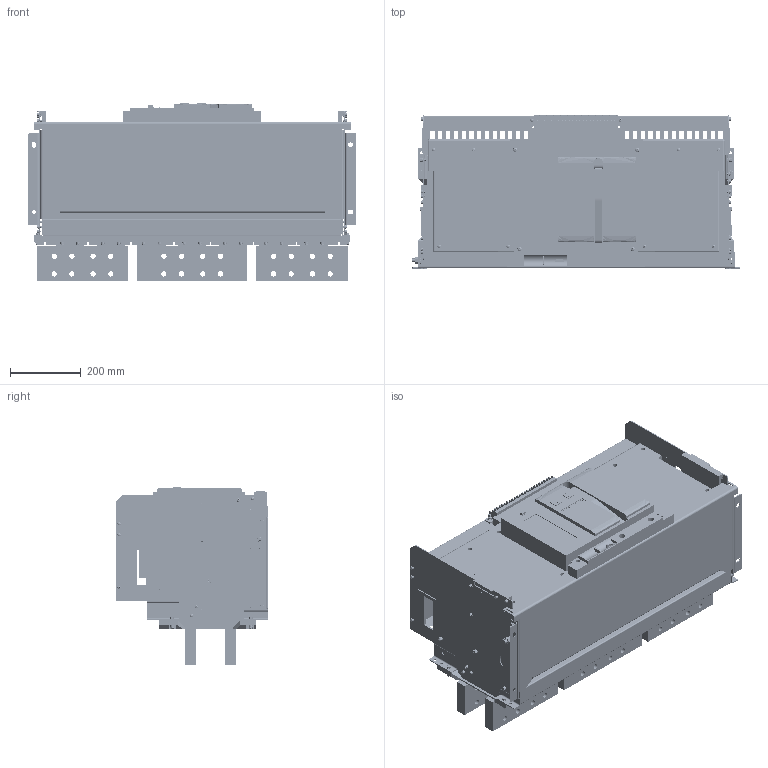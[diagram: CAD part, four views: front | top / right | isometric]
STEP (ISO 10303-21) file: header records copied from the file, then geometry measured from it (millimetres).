
FILE_DESCRIPTION (( 'STEP AP214' ), '1' );
FILE_NAME ('TENGEN-TGW1N-6300-5000D 3P.STEP', '2025-03-19T17:22:29', ( '' ), ( '' ), 'SwSTEP 2.0', 'SolidWorks 2020', '' );
FILE_SCHEMA (( 'AUTOMOTIVE_DESIGN' ));
Length unit declared in the file: millimetre
Products named in the file (31): hex nut style 2 gradeab_iso_ISO - 4033 - M8 - W - N; lock washer spring regular_ai_Regular LW 0.216; Àâòîìàò 1600 âûêàòíîé; Êîðçèíà_Ëåâàÿ ÷àñòü; hex screw gradeab_iso_ISO 4017 - M6 x 30-N; 砐儇鍻罻; lock washer spring heavy_ai_Heavy LW 0.4375; hex nut style 2 gradeab_iso_ISO - 4033 - M6 - W - N; Çåðêàëüíî îòðàçèòüÁîêîâàÿ ÷àñòü àâòîìàòà; Êëåììíèêè 3200; TENGEN-TGW1N-6300-5000D 3P; hex screw gradeab_iso_ISO 4017 - M10 x 35-N; 醫贂; Ïëîùàäêà ñ øèíàìè; Êîðçèíà_Ïðàâàÿ ÷àñòü; pan head cross recess screw_iso_ISO 7045 - M6 x 12 - Z - 12N; Ïåðåäíÿÿ ïëàòà; Çåðêàëüíî îòðàçèòüÊðåïëåíèå êîðçèíû ëåâîå; Railing; hex screw gradeab_iso_ISO 4017 - M5 x 10-N; Çåðêàëüíî îòðàçèòüRailing; Êðåïëåíèå êîðçèíû ëåâîå; hex screw gradeab_iso_ISO 4017 - M5 x 12-N; plain washer 10673 type snl_iso_ISO 10673-5.5-S; Ï-Ïðîôèëü; lock washer spring heavy_ai_Heavy LW 0.3125; lock washer spring heavy_ai_Heavy LW 0.216; hex thin nut chamfered gradeab_iso_ISO - 4035 - M10 - N; pan head cross recess screw_iso_ISO 7045 - M5 x 8 - Z - 8N; Ïëàñòèêîâàÿ ðó÷êà; Áîêîâàÿ ÷àñòü àâòîìàòà
Assembly tree (349 placements, depth 2):
  TENGEN-TGW1N-6300-5000D 3P
    Êîðçèíà_Ïðàâàÿ ÷àñòü
    醫贂
    Êîðçèíà_Ëåâàÿ ÷àñòü
    Ïëàñòèêîâàÿ ðó÷êà  x2
    Êðåïëåíèå êîðçèíû ëåâîå
    Ïëîùàäêà ñ øèíàìè
    砐儇鍻罻
    Ïåðåäíÿÿ ïëàòà
    Railing
    Àâòîìàò 1600 âûêàòíîé
    Çåðêàëüíî îòðàçèòüRailing
    Çåðêàëüíî îòðàçèòüÊðåïëåíèå êîðçèíû ëåâîå
    plain washer 10673 type snl_iso_ISO 10673-5.5-S  x104
    lock washer spring regular_ai_Regular LW 0.216
    hex screw gradeab_iso_ISO 4017 - M5 x 12-N  x5
    lock washer spring heavy_ai_Heavy LW 0.216  x100
    hex screw gradeab_iso_ISO 4017 - M5 x 10-N  x72
    hex screw gradeab_iso_ISO 4017 - M6 x 30-N  x4
    lock washer spring heavy_ai_Heavy LW 0.3125
    hex nut style 2 gradeab_iso_ISO - 4033 - M8 - W - N
    hex nut style 2 gradeab_iso_ISO - 4033 - M6 - W - N  x8
    pan head cross recess screw_iso_ISO 7045 - M5 x 8 - Z - 8N  x27
    pan head cross recess screw_iso_ISO 7045 - M6 x 12 - Z - 12N  x4
    hex screw gradeab_iso_ISO 4017 - M10 x 35-N
    lock washer spring heavy_ai_Heavy LW 0.4375
    hex thin nut chamfered gradeab_iso_ISO - 4035 - M10 - N  x2
    Êëåììíèêè 3200
    Áîêîâàÿ ÷àñòü àâòîìàòà
    Çåðêàëüíî îòðàçèòüÁîêîâàÿ ÷àñòü àâòîìàòà
    Ï-Ïðîôèëü  x2
Bounding box: 927 x 432 x 503 mm (x, y, z)
Volume: 89438925.8 mm3; surface area: 5768277.1 mm2
Topology: 395 solids, 395 shells, 7131 faces, 16392 edges, 10139 vertices
Faces by surface type: plane 3880, cylinder 1932, cone 964, torus 288, sphere 64, bspline 3
Entity records: 84790 total; most frequent: CARTESIAN_POINT 14209, DIRECTION 13522, ORIENTED_EDGE 12556, EDGE_CURVE 6278, AXIS2_PLACEMENT_3D 4622, LINE 4278, VECTOR 4278, VERTEX_POINT 4066
